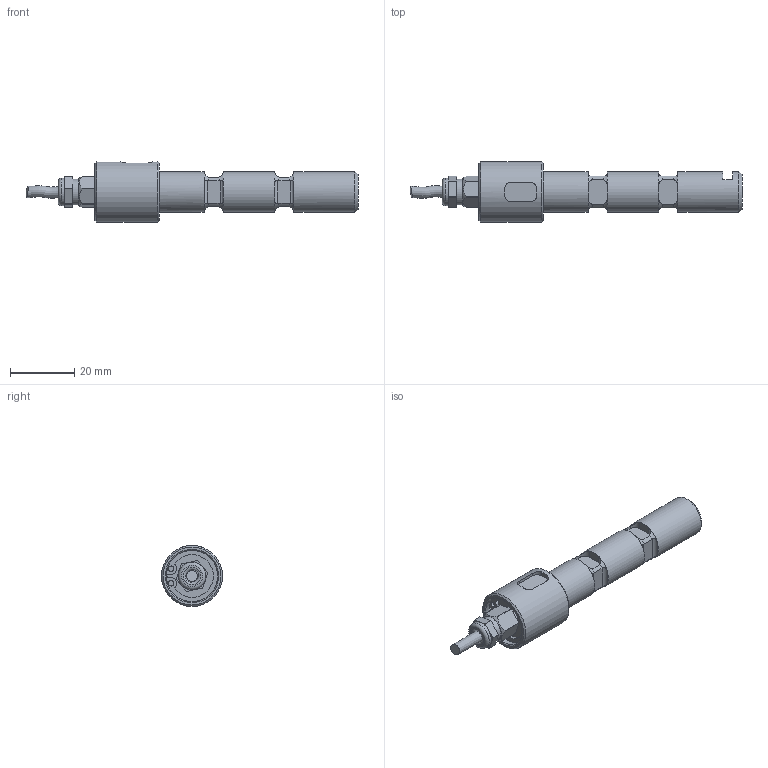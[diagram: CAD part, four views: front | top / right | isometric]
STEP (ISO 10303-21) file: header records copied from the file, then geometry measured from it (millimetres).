
FILE_DESCRIPTION(/* description */ ('Alibre Inc.'),/* implementation_level */ '2;1');
FILE_NAME(/* name */ 'export-C7F5091E-E9EE-4A2D-9064-F8AA5D41BBBD',/* time_stamp */ '2024-01-17T11:25:30+01:00',/* author */ (''),/* organization */ (''),/* preprocessor_version */ 'ST-DEVELOPER v17',/* originating_system */ 'Alibre',/* authorisation */ '');
FILE_SCHEMA (('CONFIG_CONTROL_DESIGN'));
Length unit declared in the file: centimetre
Products named in the file (8): DIN 472 - d1 16 - s 1; ID_1
Bounding box: 103.51 x 19 x 19 mm (x, y, z)
Volume: 13019.6 mm3; surface area: 6549.8 mm2
Topology: 6 solids, 6 shells, 174 faces, 423 edges, 269 vertices
Faces by surface type: cylinder 75, plane 72, torus 19, cone 7, bspline 1
Full cylindrical faces by diameter (mm): 3.5 x1, 5 x1, 6 x1, 8 x1, 8.6 x1, 12.7 x3, 15.4 x1, 16 x2, 16.8 x1, 19 x1
Entity records: 6385 total; most frequent: CARTESIAN_POINT 2059, ORIENTED_EDGE 784, DIRECTION 593, EDGE_CURVE 392, VERTEX_POINT 262, AXIS2_PLACEMENT_3D 253, FACE_BOUND 214, EDGE_LOOP 213
